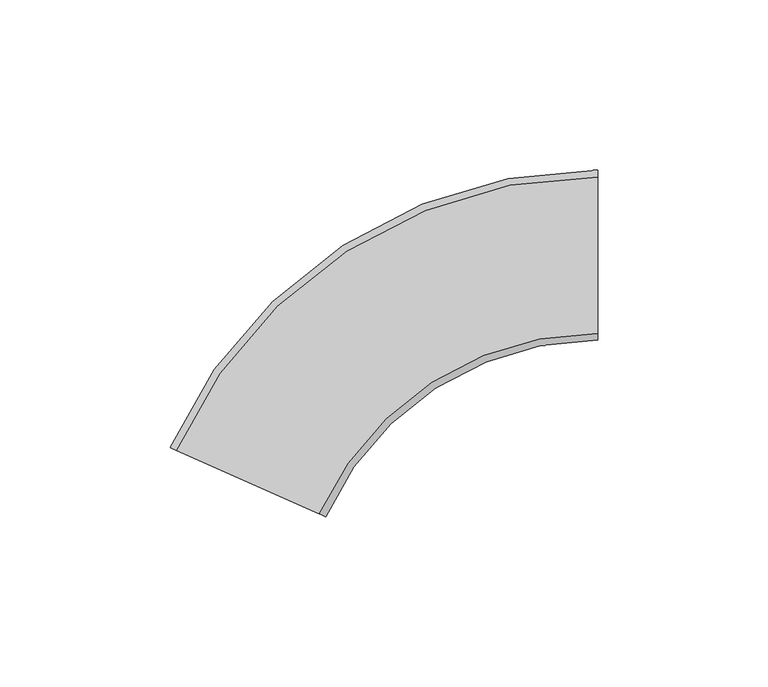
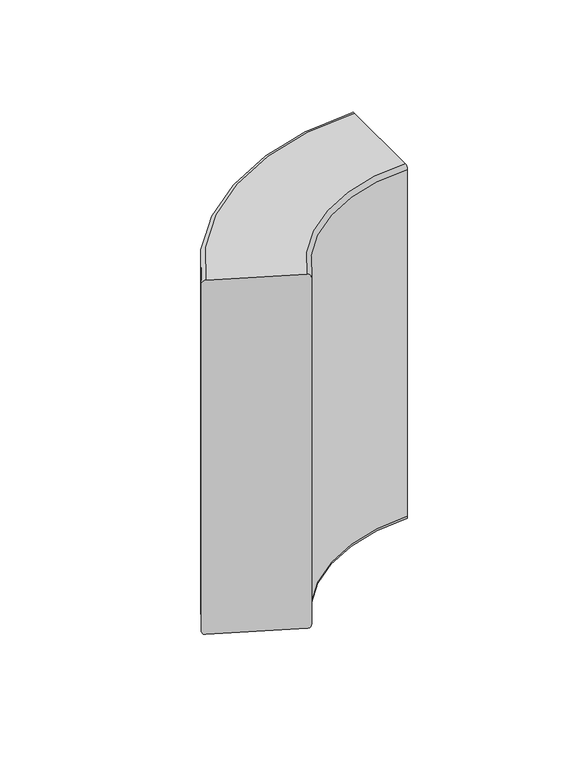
"""IFC4 building model written with IfcOpenShell, lengths in millimetres: duct fitting geometry, Угол внутренний переменный от 80° до 100° - для кабель-каналов DLP - белый : Угол внутренний переменный от 60° до 120° - для кабель-каналов DLP 65х150/195 - 1 секция - белый."""

from ifc_helpers import new_model, si_unit, point, frame, origin, place, context, project, spatial, polyline, circle_curve, ellipse_curve, trimmed, source, transform, mapped, element, save
from ifc_brep_helpers import plane_surface, cylinder_surface, revolved_surface, advanced_brep


def duct_fitting_286deedb(model_context):
    return source(origin(), model_context, "Body", "AdvancedBrep", [
        advanced_brep(
        [(-11.2854095, -103.1450572, 97.5), (-13.1125004, -102.3315839, 95.5), (-13.1125004, -102.3315839, -95.5), (-11.2854095, -103.1450572, -97.5), (30.7376815, -121.8549428, -97.5), (32.5647725, -122.6684161, -95.5), (32.5647725, -122.6684161, 95.5), (30.7376815, -121.8549428, 97.5), (112.5, -22.7578723, 97.5), (112.5, -68.7578723, 97.5), (112.5, -70.7578723, 95.5), (112.5, -70.7578723, -95.5), (112.5, -68.7578723, -97.5), (112.5, -22.7578723, -97.5), (112.5, -20.7578723, -95.5), (112.5, -20.7578723, 95.5)],
        [
            (0, 1, circle_curve(frame((-11.2854095, -103.1450572, 95.5), z_axis=(-0.40673664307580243, -0.9135454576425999, 0.0), x_axis=(-0.9135454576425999, 0.40673664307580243, 0.0)), 2.0)),
            (1, 2),
            (2, 3, circle_curve(frame((-11.2854095, -103.1450572, -95.5), z_axis=(-0.40673664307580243, -0.9135454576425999, 0.0), x_axis=(-0.9135454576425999, 0.40673664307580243, 0.0)), 2.0)),
            (3, 4),
            (4, 5, circle_curve(frame((30.7376815, -121.8549428, -95.5), z_axis=(-0.40673664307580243, -0.9135454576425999, 0.0), x_axis=(-0.9135454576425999, 0.40673664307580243, 0.0)), 2.0)),
            (5, 6),
            (6, 7, circle_curve(frame((30.7376815, -121.8549428, 95.5), z_axis=(-0.40673664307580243, -0.9135454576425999, 0.0), x_axis=(-0.9135454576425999, 0.40673664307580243, 0.0)), 2.0)),
            (7, 0),
            (8, 9),
            (9, 10, circle_curve(frame((112.5, -68.7578723, 95.5), z_axis=(1.0, 0.0, 0.0), x_axis=(0.0, 1.0, 0.0)), 2.0)),
            (10, 11),
            (11, 12, circle_curve(frame((112.5, -68.7578723, -95.5), z_axis=(1.0, 0.0, 0.0), x_axis=(0.0, 1.0, 0.0)), 2.0)),
            (12, 13),
            (13, 14, circle_curve(frame((112.5, -22.7578723, -95.5), z_axis=(1.0, 0.0, 0.0), x_axis=(0.0, 1.0, 0.0)), 2.0)),
            (14, 15),
            (15, 8, circle_curve(frame((112.5, -22.7578723, 95.5), z_axis=(1.0, 0.0, 0.0), x_axis=(0.0, 1.0, 0.0)), 2.0)),
            (15, 1, circle_curve(frame((112.5, -158.2578723, 95.5), z_axis=(0.0, 0.0, 1.0), x_axis=(-0.9135454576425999, 0.4067366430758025, 0.0)), 137.5)),
            (0, 8, circle_curve(frame((112.5, -158.2578723, 97.5), z_axis=(0.0, 0.0, -1.0), x_axis=(-0.9135454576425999, 0.4067366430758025, 0.0)), 135.5)),
            (14, 2, circle_curve(frame((112.5, -158.2578723, -95.5), z_axis=(0.0, 0.0, 1.0), x_axis=(-0.9135454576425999, 0.4067366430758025, 0.0)), 137.5)),
            (13, 3, circle_curve(frame((112.5, -158.2578723, -97.5), z_axis=(0.0, 0.0, 1.0), x_axis=(-0.9135454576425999, 0.4067366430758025, 0.0)), 135.5)),
            (12, 4, circle_curve(frame((112.5, -158.2578723, -97.5), z_axis=(0.0, 0.0, 1.0), x_axis=(-0.9135454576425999, 0.4067366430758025, 0.0)), 89.5)),
            (11, 5, circle_curve(frame((112.5, -158.2578723, -95.5), z_axis=(0.0, 0.0, 1.0), x_axis=(-0.9135454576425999, 0.4067366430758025, 0.0)), 87.5)),
            (10, 6, circle_curve(frame((112.5, -158.2578723, 95.5), z_axis=(0.0, 0.0, 1.0), x_axis=(-0.9135454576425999, 0.4067366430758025, 0.0)), 87.5)),
            (9, 7, circle_curve(frame((112.5, -158.2578723, 97.5), z_axis=(0.0, 0.0, 1.0), x_axis=(-0.9135454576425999, 0.4067366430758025, 0.0)), 89.5)),
        ],
        [
            plane_surface(frame((9.726136, -112.5, 0.0), z_axis=(-0.40673664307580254, -0.9135454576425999, 0.0), x_axis=(0.0, 0.0, 1.0))),
            plane_surface(frame((112.5, -45.7578723, 0.0), z_axis=(1.0, 0.0, 0.0), x_axis=(0.0, 0.0, 1.0))),
            revolved_surface(trimmed(ellipse_curve(frame((-11.2854095, -103.1450572, 95.5), z_axis=(-0.40673664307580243, -0.9135454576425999, 0.0), x_axis=(-0.9135454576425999, 0.40673664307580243, 0.0)), 2.0, 2.0), [point((-11.2854095, -103.1450572, 97.5))], [point((-13.1125004, -102.3315839, 95.5))], True, "CARTESIAN"), (112.5, -158.2578723, 0.0), (0.0, 0.0, -1.0)),
            cylinder_surface(frame((112.5, -158.2578723, 0.0), z_axis=(0.0, 0.0, -1.0), x_axis=(-0.9135454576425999, 0.4067366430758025, 0.0)), 137.5),
            revolved_surface(trimmed(ellipse_curve(frame((-11.2854095, -103.1450572, -95.5), z_axis=(-0.40673664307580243, -0.9135454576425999, 0.0), x_axis=(-0.9135454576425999, 0.40673664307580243, 0.0)), 2.0, 2.0), [point((-13.1125004, -102.3315839, -95.5))], [point((-11.2854095, -103.1450572, -97.5))], True, "CARTESIAN"), (112.5, -158.2578723, 0.0), (0.0, 0.0, -1.0)),
            plane_surface(frame((112.5, -158.2578723, -97.5), z_axis=(0.0, 0.0, -1.0), x_axis=(-0.9135454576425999, 0.4067366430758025, 0.0))),
            revolved_surface(trimmed(ellipse_curve(frame((30.7376815, -121.8549428, -95.5), z_axis=(-0.40673664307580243, -0.9135454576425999, 0.0), x_axis=(-0.9135454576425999, 0.40673664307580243, 0.0)), 2.0, 2.0), [point((30.7376815, -121.8549428, -97.5))], [point((32.5647725, -122.6684161, -95.5))], True, "CARTESIAN"), (112.5, -158.2578723, 0.0), (0.0, 0.0, -1.0)),
            revolved_surface(polyline([(32.56477245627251, -122.66841603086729, -95.5), (32.56477245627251, -122.66841603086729, 95.5)]), (112.5, -158.2578723, 0.0), (0.0, 0.0, -1.0)),
            revolved_surface(trimmed(ellipse_curve(frame((30.7376815, -121.8549428, 95.5), z_axis=(-0.40673664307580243, -0.9135454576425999, 0.0), x_axis=(-0.9135454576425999, 0.40673664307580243, 0.0)), 2.0, 2.0), [point((32.5647725, -122.6684161, 95.5))], [point((30.7376815, -121.8549428, 97.5))], True, "CARTESIAN"), (112.5, -158.2578723, 0.0), (0.0, 0.0, -1.0)),
            plane_surface(frame((112.5, -158.2578723, 97.5), z_axis=(0.0, 0.0, 1.0), x_axis=(-0.9135454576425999, 0.4067366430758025, 0.0))),
        ],
        [
            (0, [[1, 2, 3, 4, 5, 6, 7, 8]]),
            (1, [[9, 10, 11, 12, 13, 14, 15, 16]]),
            (2, [[17, -1, 18, -16]]),
            (3, [[19, -2, -17, -15]]),
            (4, [[20, -3, -19, -14]]),
            (5, [[21, -4, -20, -13]]),
            (6, [[22, -5, -21, -12]]),
            (7, [[23, -6, -22, -11]]),
            (8, [[24, -7, -23, -10]]),
            (9, [[-18, -8, -24, -9]]),
        ],
    ),
    ])


if __name__ == "__main__":
    model = new_model("IFC4")
    model_context = context("Model", 3, world=origin())
    ifc_project = project(units=[si_unit("LENGTHUNIT", "METRE", prefix="MILLI")], contexts=[model_context])
    site = spatial("IfcSite", under=ifc_project)
    building = spatial("IfcBuilding", under=site)
    placement = place(None, origin())
    duct_fitting_shape = duct_fitting_286deedb(model_context)
    element("IfcDuctFitting", 1, ObjectType="Угол внутренний переменный от 80° до 100° - для кабель-каналов DLP - белый : Угол внутренний переменный от 60° до 120° - для кабель-каналов DLP 65х150/195 - 1 секция - белый", at=placement, inside=building, context=model_context, shape_type="MappedRepresentation", body=[
        mapped(duct_fitting_shape, transform((0.0, 0.0, 0.0), x_axis=(1.0, 0.0, 0.0), y_axis=(0.0, 1.0, 0.0), z_axis=(0.0, 0.0, 1.0))),
    ])
    save(model, "model.ifc")
